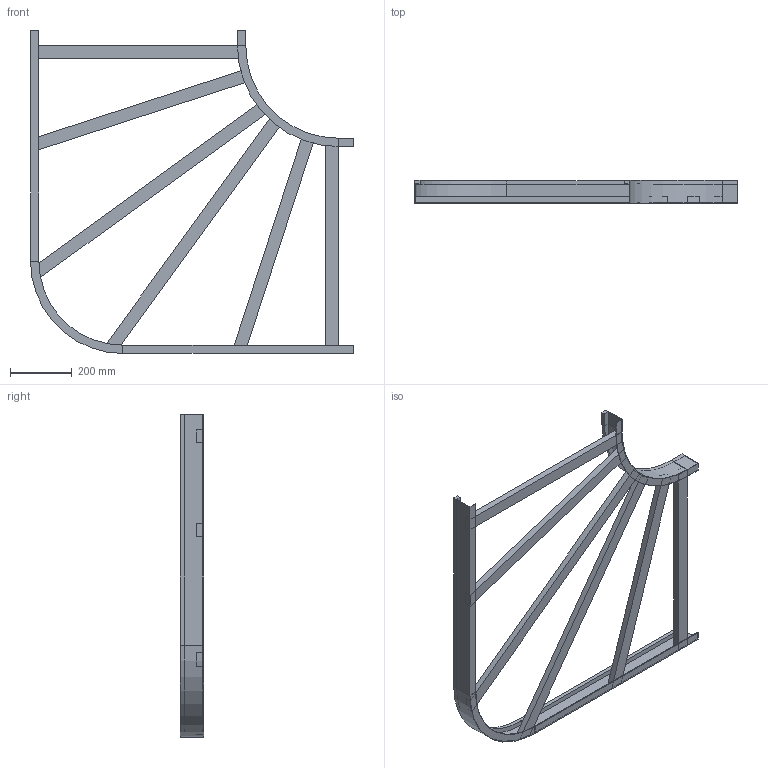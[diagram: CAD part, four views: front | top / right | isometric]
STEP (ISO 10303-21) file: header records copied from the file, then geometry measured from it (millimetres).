
FILE_DESCRIPTION (( 'STEP AP214' ), '1' );
FILE_NAME ('B2_10B3C700.step', '2025-02-21T15:27:09', ( '' ), ( '' ), 'SwSTEP 2.0', 'SolidWorks 2023', '' );
FILE_SCHEMA (( 'AUTOMOTIVE_DESIGN' ));
Length unit declared in the file: millimetre
Products named in the file (6): B2_LONGH.INTERNO 90°_H75_R300; B2_LONGH.ESTERNO 90°_H75_R300+700; TRAVERSINO_995_SCANTONATO; B2_10B3C700; TRAVERSINO_700; TRAVERSINO_786_SCANTONATO
Assembly tree (8 placements, depth 2):
  B2_10B3C700
    B2_LONGH.INTERNO 90°_H75_R300
    B2_LONGH.ESTERNO 90°_H75_R300+700
    TRAVERSINO_700  x2
    TRAVERSINO_786_SCANTONATO  x2
    TRAVERSINO_995_SCANTONATO  x2
Bounding box: 1050 x 75 x 1050 mm (x, y, z)
Volume: 4857618.4 mm3; surface area: 1188354.3 mm2
Topology: 8 solids, 8 shells, 88 faces, 184 edges, 112 vertices
Faces by surface type: plane 80, cylinder 8
Entity records: 2023 total; most frequent: DIRECTION 326, CARTESIAN_POINT 317, ORIENTED_EDGE 296, EDGE_CURVE 148, LINE 132, VECTOR 132, AXIS2_PLACEMENT_3D 97, VERTEX_POINT 88
